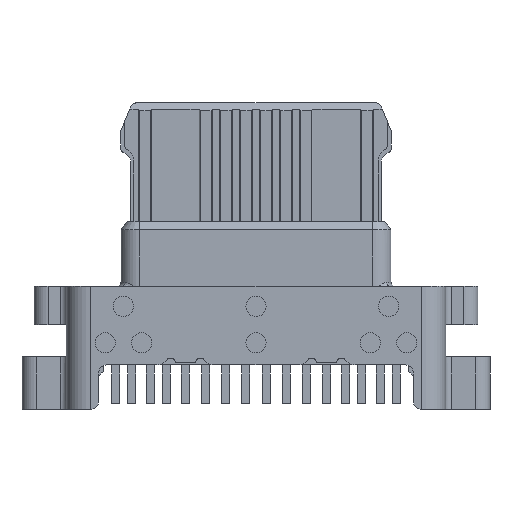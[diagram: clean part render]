
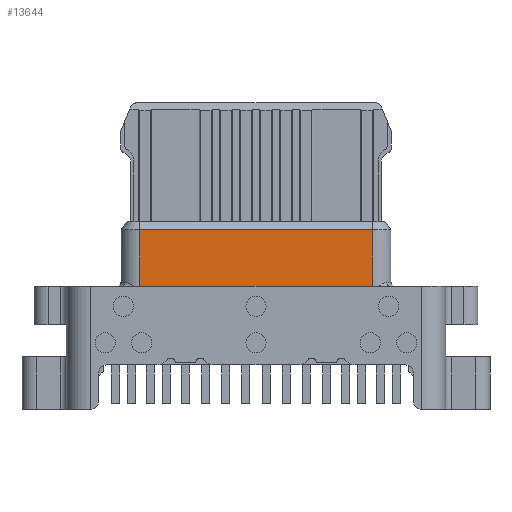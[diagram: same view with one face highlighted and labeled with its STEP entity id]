
A CAD part, front view. The second image highlights one B-rep face of the part: STEP entity #13644.
In plain terms, the highlighted planar face has unit normal (0, -1, 0).
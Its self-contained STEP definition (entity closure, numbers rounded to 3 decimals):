
#3569=DIRECTION('',(-1.,0.,0.));
#3570=VECTOR('',#3569,0.955);
#3571=CARTESIAN_POINT('',(-2.895,-0.6,-0.1));
#3572=LINE('',#3571,#3570);
#4057=DIRECTION('',(0.,0.,-1.));
#4058=VECTOR('',#4057,1.5);
#4059=CARTESIAN_POINT('',(2.895,-0.6,1.4));
#4060=LINE('',#4059,#4058);
#4061=DIRECTION('',(-1.,0.,0.));
#4062=VECTOR('',#4061,7.7);
#4063=CARTESIAN_POINT('',(3.85,-0.6,-0.35));
#4064=LINE('',#4063,#4062);
#4081=DIRECTION('',(-1.,0.,0.));
#4082=VECTOR('',#4081,0.955);
#4083=CARTESIAN_POINT('',(3.85,-0.6,-0.1));
#4084=LINE('',#4083,#4082);
#4820=DIRECTION('',(0.,0.,1.));
#4821=VECTOR('',#4820,0.25);
#4822=CARTESIAN_POINT('',(3.85,-0.6,-0.35));
#4823=LINE('',#4822,#4821);
#4990=DIRECTION('',(0.,0.,-1.));
#4991=VECTOR('',#4990,0.25);
#4992=CARTESIAN_POINT('',(-3.85,-0.6,-0.1));
#4993=LINE('',#4992,#4991);
#4994=DIRECTION('',(0.,0.,-1.));
#4995=VECTOR('',#4994,1.5);
#4996=CARTESIAN_POINT('',(-2.895,-0.6,1.4));
#4997=LINE('',#4996,#4995);
#5028=DIRECTION('',(-1.,0.,0.));
#5029=VECTOR('',#5028,5.79);
#5030=CARTESIAN_POINT('',(2.895,-0.6,1.4));
#5031=LINE('',#5030,#5029);
#6392=CARTESIAN_POINT('',(-3.85,-0.6,-0.35));
#6393=VERTEX_POINT('',#6392);
#6394=CARTESIAN_POINT('',(-3.85,-0.6,-0.1));
#6395=VERTEX_POINT('',#6394);
#6398=CARTESIAN_POINT('',(2.895,-0.6,1.4));
#6399=CARTESIAN_POINT('',(2.895,-0.6,-0.1));
#6400=VERTEX_POINT('',#6398);
#6401=VERTEX_POINT('',#6399);
#6402=CARTESIAN_POINT('',(3.85,-0.6,-0.1));
#6403=VERTEX_POINT('',#6402);
#6404=CARTESIAN_POINT('',(3.85,-0.6,-0.35));
#6405=VERTEX_POINT('',#6404);
#6406=CARTESIAN_POINT('',(-2.895,-0.6,-0.1));
#6407=VERTEX_POINT('',#6406);
#6408=CARTESIAN_POINT('',(-2.895,-0.6,1.4));
#6409=VERTEX_POINT('',#6408);
#13623=CARTESIAN_POINT('',(-3.85,-0.6,0.));
#13624=DIRECTION('',(0.,-1.,0.));
#13625=DIRECTION('',(1.,0.,0.));
#13626=AXIS2_PLACEMENT_3D('',#13623,#13624,#13625);
#13627=PLANE('',#13626);
#13628=ORIENTED_EDGE('',*,*,#13612,.T.);
#13630=ORIENTED_EDGE('',*,*,#13629,.F.);
#13632=ORIENTED_EDGE('',*,*,#13631,.F.);
#13634=ORIENTED_EDGE('',*,*,#13633,.T.);
#13636=ORIENTED_EDGE('',*,*,#13635,.F.);
#13637=ORIENTED_EDGE('',*,*,#13082,.F.);
#13639=ORIENTED_EDGE('',*,*,#13638,.F.);
#13641=ORIENTED_EDGE('',*,*,#13640,.F.);
#13642=EDGE_LOOP('',(#13628,#13630,#13632,#13634,#13636,#13637,#13639,#13641));
#13643=FACE_OUTER_BOUND('',#13642,.F.);
#13082=EDGE_CURVE('',#6407,#6395,#3572,.T.);
#13612=EDGE_CURVE('',#6400,#6401,#4060,.T.);
#13629=EDGE_CURVE('',#6403,#6401,#4084,.T.);
#13631=EDGE_CURVE('',#6405,#6403,#4823,.T.);
#13633=EDGE_CURVE('',#6405,#6393,#4064,.T.);
#13635=EDGE_CURVE('',#6395,#6393,#4993,.T.);
#13638=EDGE_CURVE('',#6409,#6407,#4997,.T.);
#13640=EDGE_CURVE('',#6400,#6409,#5031,.T.);
#13644=ADVANCED_FACE('',(#13643),#13627,.T.);
